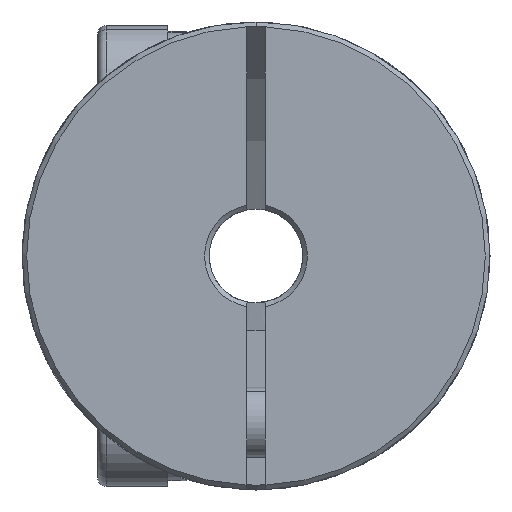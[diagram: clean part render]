
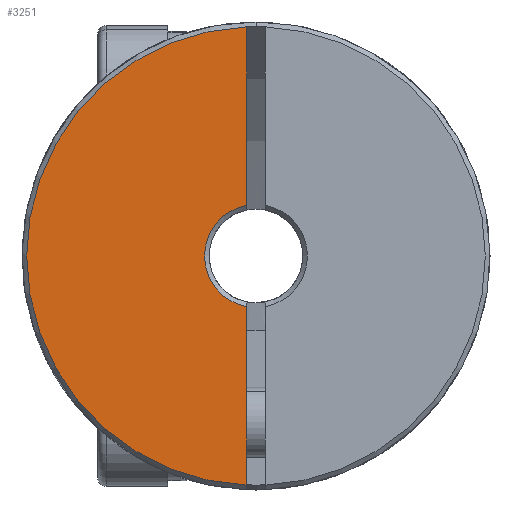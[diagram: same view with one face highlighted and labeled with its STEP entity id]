
A CAD part, front view. The second image highlights one B-rep face of the part: STEP entity #3251.
In plain terms, the highlighted planar face has unit normal (0, -1, 0).
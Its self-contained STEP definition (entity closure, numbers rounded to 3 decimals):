
#63 = CIRCLE ( 'NONE', #5780, 2.2 ) ;
#90 = EDGE_CURVE ( 'NONE', #3740, #1836, #63, .T. ) ;
#175 = CARTESIAN_POINT ( 'NONE',  ( -0.4, -17.5, 0. ) ) ;
#357 = CARTESIAN_POINT ( 'NONE',  ( -0.4, -17.5, 9.792 ) ) ;
#462 = DIRECTION ( 'NONE',  ( 0., -1., 0. ) ) ;
#845 = EDGE_CURVE ( 'NONE', #1466, #1836, #3071, .T. ) ;
#1051 = PLANE ( 'NONE',  #1571 ) ;
#1362 = VERTEX_POINT ( 'NONE', #2595 ) ;
#1466 = VERTEX_POINT ( 'NONE', #357 ) ;
#1571 = AXIS2_PLACEMENT_3D ( 'NONE', #5058, #1641, #2155 ) ;
#1641 = DIRECTION ( 'NONE',  ( 0., 1., 0. ) ) ;
#1836 = VERTEX_POINT ( 'NONE', #6621 ) ;
#2155 = DIRECTION ( 'NONE',  ( 0., 0., 1. ) ) ;
#2177 = EDGE_LOOP ( 'NONE', ( #4823, #4020, #4136, #3797 ) ) ;
#2204 = CARTESIAN_POINT ( 'NONE',  ( 0., -17.5, 0. ) ) ;
#2239 = EDGE_CURVE ( 'NONE', #3740, #1362, #6525, .T. ) ;
#2595 = CARTESIAN_POINT ( 'NONE',  ( -0.4, -17.5, -9.792 ) ) ;
#2638 = CIRCLE ( 'NONE', #5953, 9.8 ) ;
#2833 = DIRECTION ( 'NONE',  ( 0., 0., 1. ) ) ;
#3071 = LINE ( 'NONE', #175, #6067 ) ;
#3251 = ADVANCED_FACE ( 'NONE', ( #7064 ), #1051, .F. ) ;
#3638 = CARTESIAN_POINT ( 'NONE',  ( -0.4, -17.5, 0. ) ) ;
#3740 = VERTEX_POINT ( 'NONE', #5120 ) ;
#3783 = EDGE_CURVE ( 'NONE', #1466, #1362, #2638, .T. ) ;
#3797 = ORIENTED_EDGE ( 'NONE', *, *, #90, .T. ) ;
#4020 = ORIENTED_EDGE ( 'NONE', *, *, #3783, .T. ) ;
#4136 = ORIENTED_EDGE ( 'NONE', *, *, #2239, .F. ) ;
#4505 = CARTESIAN_POINT ( 'NONE',  ( 0., -17.5, 0. ) ) ;
#4536 = DIRECTION ( 'NONE',  ( 0., 0., 1. ) ) ;
#4823 = ORIENTED_EDGE ( 'NONE', *, *, #845, .F. ) ;
#4833 = DIRECTION ( 'NONE',  ( 0., 0., -1. ) ) ;
#5058 = CARTESIAN_POINT ( 'NONE',  ( 0., -17.5, 0. ) ) ;
#5120 = CARTESIAN_POINT ( 'NONE',  ( -0.4, -17.5, -2.163 ) ) ;
#5662 = DIRECTION ( 'NONE',  ( 0., 1., 0. ) ) ;
#5780 = AXIS2_PLACEMENT_3D ( 'NONE', #2204, #5662, #2833 ) ;
#5896 = VECTOR ( 'NONE', #6530, 1000. ) ;
#5953 = AXIS2_PLACEMENT_3D ( 'NONE', #4505, #462, #4536 ) ;
#6067 = VECTOR ( 'NONE', #4833, 1000. ) ;
#6525 = LINE ( 'NONE', #3638, #5896 ) ;
#6530 = DIRECTION ( 'NONE',  ( 0., 0., -1. ) ) ;
#6621 = CARTESIAN_POINT ( 'NONE',  ( -0.4, -17.5, 2.163 ) ) ;
#7064 = FACE_OUTER_BOUND ( 'NONE', #2177, .T. ) ;
